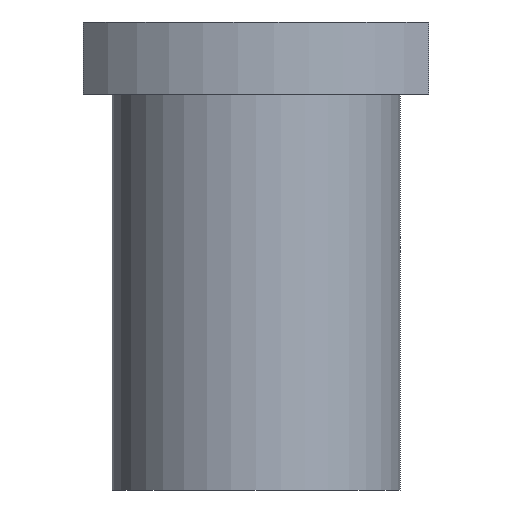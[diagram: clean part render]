
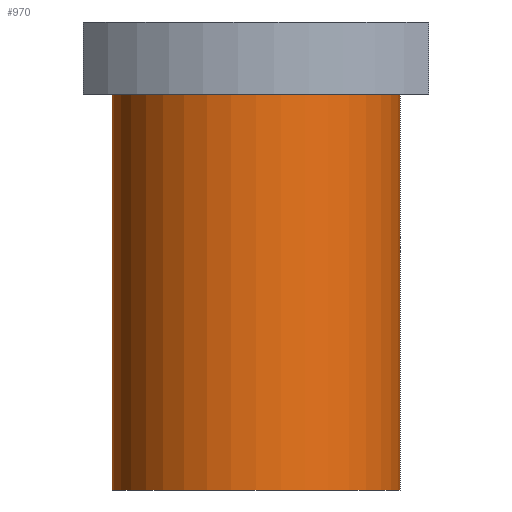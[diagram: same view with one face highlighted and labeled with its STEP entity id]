
A CAD part, front view. The second image highlights one B-rep face of the part: STEP entity #970.
In plain terms, the highlighted cylindrical face has radius 20 mm (diameter 40 mm), a partial arc.
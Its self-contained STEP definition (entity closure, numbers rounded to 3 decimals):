
#16=CARTESIAN_POINT('',(0.,0.,-27.5));
#17=DIRECTION('',(0.,0.,1.));
#18=DIRECTION('',(-1.,0.,0.));
#19=AXIS2_PLACEMENT_3D('',#16,#17,#18);
#374=DIRECTION('',(0.,0.,1.));
#375=VECTOR('',#374,55.);
#376=CARTESIAN_POINT('',(20.,0.,-27.5));
#377=LINE('',#376,#375);
#378=CARTESIAN_POINT('',(0.,0.,27.5));
#379=DIRECTION('',(0.,0.,1.));
#380=DIRECTION('',(-1.,0.,0.));
#381=AXIS2_PLACEMENT_3D('',#378,#379,#380);
#383=DIRECTION('',(0.,0.,1.));
#384=VECTOR('',#383,55.);
#385=CARTESIAN_POINT('',(-20.,0.,-27.5));
#386=LINE('',#385,#384);
#391=CARTESIAN_POINT('',(20.,0.,-27.5));
#392=CARTESIAN_POINT('',(-20.,0.,-27.5));
#393=VERTEX_POINT('',#391);
#394=VERTEX_POINT('',#392);
#463=CARTESIAN_POINT('',(20.,0.,27.5));
#464=CARTESIAN_POINT('',(-20.,0.,27.5));
#465=VERTEX_POINT('',#463);
#466=VERTEX_POINT('',#464);
#959=CARTESIAN_POINT('',(0.,0.,-27.5));
#960=DIRECTION('',(0.,0.,1.));
#961=DIRECTION('',(1.,0.,0.));
#962=AXIS2_PLACEMENT_3D('',#959,#960,#961);
#963=CYLINDRICAL_SURFACE('',#962,20.);
#964=ORIENTED_EDGE('',*,*,#658,.T.);
#965=ORIENTED_EDGE('',*,*,#954,.F.);
#966=ORIENTED_EDGE('',*,*,#490,.F.);
#967=ORIENTED_EDGE('',*,*,#951,.T.);
#968=EDGE_LOOP('',(#964,#965,#966,#967));
#969=FACE_OUTER_BOUND('',#968,.F.);
#20=CIRCLE('',#19,20.);
#382=CIRCLE('',#381,20.);
#490=EDGE_CURVE('',#394,#393,#20,.T.);
#658=EDGE_CURVE('',#466,#465,#382,.T.);
#951=EDGE_CURVE('',#394,#466,#386,.T.);
#954=EDGE_CURVE('',#393,#465,#377,.T.);
#970=ADVANCED_FACE('',(#969),#963,.T.);
